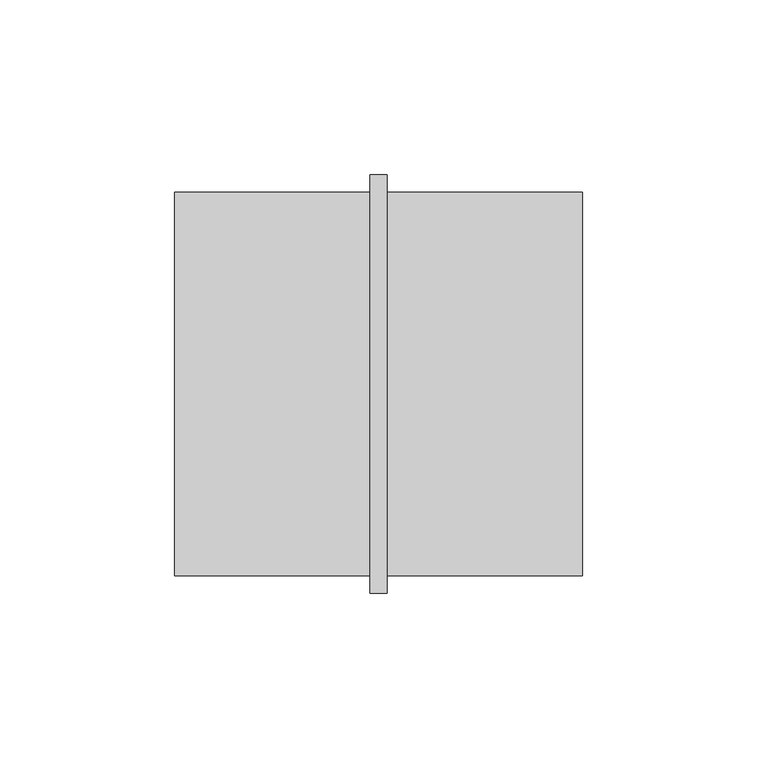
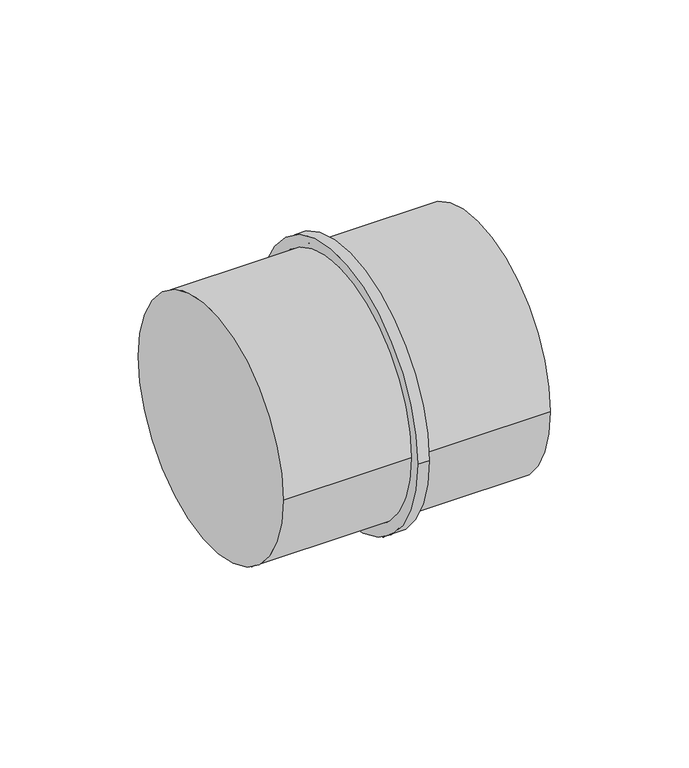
"""IFC4 building model written with IfcOpenShell, lengths in millimetres: pipe fitting geometry, NLRS_52_PIF_UN_PE kraagbus_geb : DN30-100 / ø32-110."""

from ifc_helpers import new_model, si_unit, point, frame, origin, origin_2d, place, context, project, spatial, circle_curve, trimmed, segment, composite_curve, outline, extrude, source, transform, mapped, element, save


def pipe_fitting_8b9b12c6(model_context):
    return source(origin(), model_context, "Body", "SweptSolid", [
        extrude(outline(composite_curve([segment(trimmed(circle_curve(origin_2d(), 55.0), [point((-55.0, 0.0))], [point((55.0, 0.0))], False, "CARTESIAN"), True, "CONTINUOUS"), segment(trimmed(circle_curve(origin_2d(), 55.0), [point((55.0, 0.0))], [point((-55.0, 0.0))], False, "CARTESIAN"), True, "CONTINUOUS")], self_intersect=False)), frame((-58.5, 0.0, 0.0), z_axis=(1.0, 0.0, 0.0), x_axis=(0.0, 1.0, 0.0)), (0.0, 0.0, 1.0), 117.0),
        extrude(outline(composite_curve([segment(trimmed(circle_curve(origin_2d(), 60.0), [point((-60.0, 0.0))], [point((60.0, 0.0))], False, "CARTESIAN"), True, "CONTINUOUS"), segment(trimmed(circle_curve(origin_2d(), 60.0), [point((60.0, 0.0))], [point((-60.0, 0.0))], False, "CARTESIAN"), True, "CONTINUOUS")], self_intersect=False), holes=[composite_curve([segment(trimmed(circle_curve(origin_2d(), 55.0), [point((-55.0, 0.0))], [point((55.0, 0.0))], True, "CARTESIAN"), True, "CONTINUOUS"), segment(trimmed(circle_curve(origin_2d(), 55.0), [point((55.0, 0.0))], [point((-55.0, 0.0))], True, "CARTESIAN"), True, "CONTINUOUS")], self_intersect=False)]), frame((-2.5, 0.0, 0.0), z_axis=(1.0, 0.0, 0.0), x_axis=(0.0, 1.0, 0.0)), (0.0, 0.0, 1.0), 5.0),
    ])


if __name__ == "__main__":
    model = new_model("IFC4")
    model_context = context("Model", 3, world=origin())
    ifc_project = project(units=[si_unit("LENGTHUNIT", "METRE", prefix="MILLI")], contexts=[model_context])
    site = spatial("IfcSite", under=ifc_project)
    building = spatial("IfcBuilding", under=site)
    placement = place(None, origin())
    pipe_fitting_shape = pipe_fitting_8b9b12c6(model_context)
    element("IfcPipeFitting", 1, ObjectType="NLRS_52_PIF_UN_PE kraagbus_geb : DN30-100 / ø32-110", at=placement, inside=building, context=model_context, shape_type="MappedRepresentation", body=[
        mapped(pipe_fitting_shape, transform((0.0, 0.0, 0.0), x_axis=(1.0, 0.0, 0.0), y_axis=(0.0, 1.0, 0.0), z_axis=(0.0, 0.0, 1.0))),
    ])
    save(model, "model.ifc")
